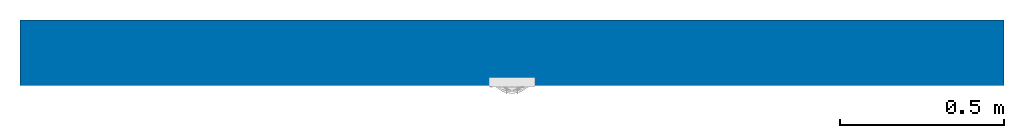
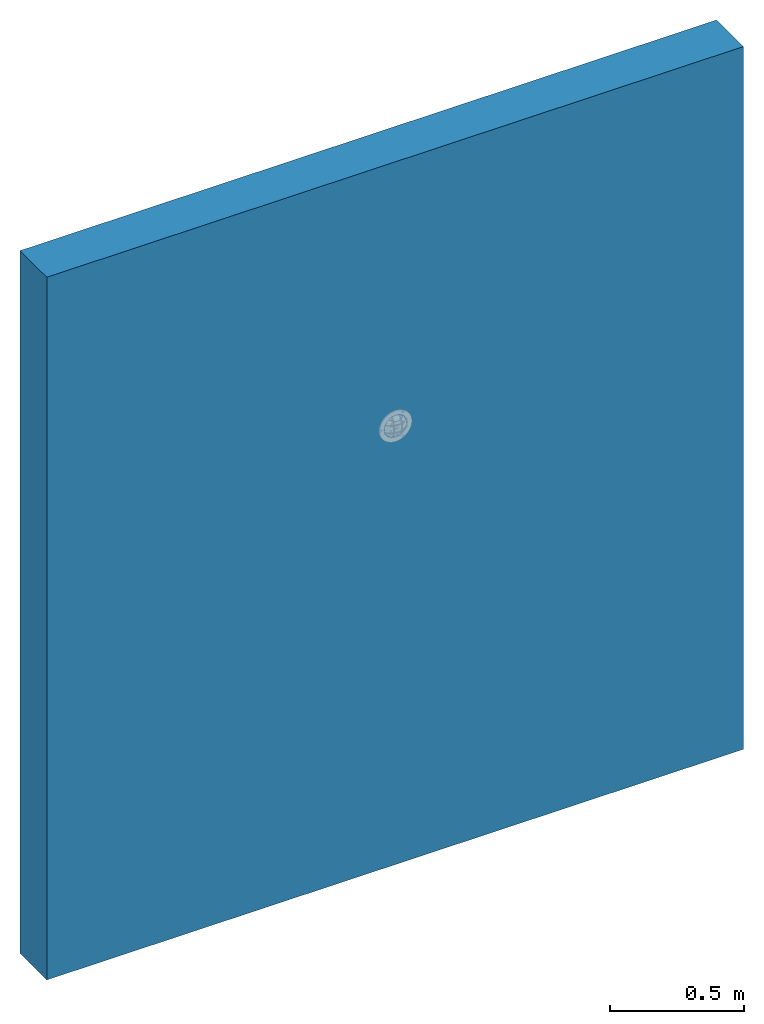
# One storey, part 1 of 2: 1 wall, 3 openings.
"""IFC2X3 building model written with IfcOpenShell, lengths in metres."""

from ifc_helpers import new_model, si_unit, direction, frame, frame_2d, origin, place, context, subcontext, project, spatial, rectangle, extrude, faceted_brep, material, layer, layer_set, layer_usage, type_object, element, save


model = new_model("IFC2X3")

# Units and contexts
model_context = context("Model", 3, precision=1e-05, world=origin(), true_north=direction((6.123233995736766e-17, 1.0)))
body_context = subcontext(model_context, "Body", "Model", "MODEL_VIEW")
ifc_project = project(units=[si_unit("LENGTHUNIT", "METRE"), si_unit("AREAUNIT", "SQUARE_METRE")], contexts=[model_context])

# Site, building, storey
site_placement = place(None, origin())
site = spatial("IfcSite", under=ifc_project, at=site_placement, Name="Default", CompositionType="ELEMENT")
building_placement = place(site_placement, origin())
building = spatial("IfcBuilding", under=site, at=building_placement, CompositionType="ELEMENT")
storey_placement = place(building_placement, origin())
storey = spatial("IfcBuildingStorey", under=building, at=storey_placement, Name="Level 1", CompositionType="ELEMENT", Elevation=0.0)

# Wall, openings
ifc_material = material(Name="Default Wall")
ifc_layer = layer(ifc_material, 0.2)
ifc_layer_set = layer_set([ifc_layer], Name="Basic Wall:Wall 20cm2")
ifc_layer_usage = layer_usage(ifc_layer_set, "AXIS2", "NEGATIVE", 0.1)
wall_type = type_object("IfcWallType", Name="Basic Wall:Wall 20cm2", PredefinedType="STANDARD", material=ifc_layer_set)
wall_placement = place(storey_placement, frame((-5.088410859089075, 2.131286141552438, 0.0)))
wall = element("IfcWallStandardCase", 1, at=wall_placement, inside=storey, type_object=wall_type, material=ifc_layer_usage, Name="Basic Wall:Wall 20cm2", ObjectType="Basic Wall:Wall 20cm2", context=body_context, shape_type="SweptSolid", body=[
    extrude(rectangle(XDim=3.0000000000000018, YDim=0.2, at=frame_2d((1.5000000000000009, 2.0816681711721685e-17), x_axis=(-1.0, 0.0))), origin(), (0.0, 0.0, 1.0), 3.2),
])
opening_1_placement = place(wall_placement, frame((5.088410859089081, -2.131286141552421, 2.0)))
element("IfcOpeningElement", 2, at=opening_1_placement, cuts=wall, Name="Basic Wall:Wall 20cm2", ObjectType="Opening", context=body_context, shape_type="Brep", body=[
    faceted_brep([(-3.6505805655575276, 2.025762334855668, 0.002385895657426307), (-3.652580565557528, 2.025762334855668, 0.002385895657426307), (-3.652580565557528, 2.025762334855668, 0.0009000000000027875), (-3.6540805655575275, 2.025762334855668, 0.0009000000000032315), (-3.6540805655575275, 2.025762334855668, -0.0008999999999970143), (-3.652580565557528, 2.025762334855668, -0.0008999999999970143), (-3.6525805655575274, 2.025762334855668, -0.002399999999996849), (-3.6505805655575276, 2.025762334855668, -0.002399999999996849), (-3.6505805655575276, 2.025762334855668, -0.0008999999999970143), (-3.649078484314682, 2.025762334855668, -0.0008999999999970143), (-3.649078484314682, 2.025762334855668, 0.0009000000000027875), (-3.6505805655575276, 2.025762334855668, 0.0009000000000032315), (-3.6509805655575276, 2.0271323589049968, 0.001985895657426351), (-3.6509805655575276, 2.0271323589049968, 0.0005000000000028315), (-3.649478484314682, 2.0271323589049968, 0.0005000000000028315), (-3.649478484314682, 2.0271323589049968, -0.0004999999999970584), (-3.6509805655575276, 2.0271323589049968, -0.0004999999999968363), (-3.6509805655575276, 2.0271323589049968, -0.001999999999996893), (-3.652180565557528, 2.0271323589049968, -0.001999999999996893), (-3.652180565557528, 2.0271323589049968, -0.0004999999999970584), (-3.6536805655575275, 2.0271323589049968, -0.0004999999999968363), (-3.6536805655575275, 2.0271323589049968, 0.0005000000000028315), (-3.652180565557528, 2.0271323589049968, 0.0005000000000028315), (-3.6521805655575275, 2.0271323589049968, 0.001985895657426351)], [[[0, 1, 2, 3, 4, 5, 6, 7, 8, 9, 10, 11]], [[12, 13, 14, 15, 16, 17, 18, 19, 20, 21, 22, 23]], [[12, 23, 1, 0]], [[23, 22, 2, 1]], [[22, 21, 3, 2]], [[21, 20, 4, 3]], [[20, 19, 5, 4]], [[19, 18, 6, 5]], [[18, 17, 7, 6]], [[17, 16, 8, 7]], [[16, 15, 9, 8]], [[15, 14, 10, 9]], [[14, 13, 11, 10]], [[13, 12, 0, 11]]]),
])
opening_2_placement = place(wall_placement, frame((5.088410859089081, -2.131286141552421, 2.0)))
element("IfcOpeningElement", 3, at=opening_2_placement, cuts=wall, Name="Basic Wall:Wall 20cm2", ObjectType="Opening", context=body_context, shape_type="Brep", body=[
    faceted_brep([(-3.5558204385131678, 2.025762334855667, -0.05233031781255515), (-3.5578204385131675, 2.025762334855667, -0.05233031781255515), (-3.5578204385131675, 2.025762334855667, -0.05381621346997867), (-3.559320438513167, 2.025762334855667, -0.05381621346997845), (-3.559320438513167, 2.025762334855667, -0.05561621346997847), (-3.5578204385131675, 2.025762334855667, -0.05561621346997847), (-3.557820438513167, 2.025762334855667, -0.05711621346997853), (-3.5558204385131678, 2.025762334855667, -0.05711621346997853), (-3.5558204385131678, 2.025762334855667, -0.05561621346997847), (-3.554318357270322, 2.025762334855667, -0.05561621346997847), (-3.554318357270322, 2.025762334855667, -0.05381621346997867), (-3.5558204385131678, 2.025762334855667, -0.05381621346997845), (-3.5562204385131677, 2.027132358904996, -0.052730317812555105), (-3.5562204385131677, 2.027132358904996, -0.054216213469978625), (-3.554718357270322, 2.027132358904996, -0.054216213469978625), (-3.554718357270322, 2.027132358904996, -0.055216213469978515), (-3.5562204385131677, 2.027132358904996, -0.05521621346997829), (-3.5562204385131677, 2.027132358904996, -0.05671621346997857), (-3.5574204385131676, 2.027132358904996, -0.05671621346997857), (-3.5574204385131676, 2.027132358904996, -0.055216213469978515), (-3.5589204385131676, 2.027132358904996, -0.05521621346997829), (-3.5589204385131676, 2.027132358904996, -0.054216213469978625), (-3.5574204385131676, 2.027132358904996, -0.054216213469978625), (-3.557420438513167, 2.027132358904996, -0.052730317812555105)], [[[0, 1, 2, 3, 4, 5, 6, 7, 8, 9, 10, 11]], [[12, 13, 14, 15, 16, 17, 18, 19, 20, 21, 22, 23]], [[12, 23, 1, 0]], [[23, 22, 2, 1]], [[22, 21, 3, 2]], [[21, 20, 4, 3]], [[20, 19, 5, 4]], [[19, 18, 6, 5]], [[18, 17, 7, 6]], [[17, 16, 8, 7]], [[16, 15, 9, 8]], [[15, 14, 10, 9]], [[14, 13, 11, 10]], [[13, 12, 0, 11]]]),
])
opening_3_placement = place(wall_placement, frame((5.088410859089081, -2.131286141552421, 2.0)))
element("IfcOpeningElement", 4, at=opening_3_placement, cuts=wall, Name="Basic Wall:Wall 20cm2", ObjectType="Opening", context=body_context, shape_type="Brep", body=[
    faceted_brep([(-3.5563063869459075, 2.025762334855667, 0.05738589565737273), (-3.5583063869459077, 2.025762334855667, 0.05738589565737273), (-3.5583063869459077, 2.025762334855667, 0.05589999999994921), (-3.5598063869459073, 2.025762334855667, 0.05589999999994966), (-3.5598063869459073, 2.025762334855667, 0.05409999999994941), (-3.5583063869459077, 2.025762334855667, 0.05409999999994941), (-3.5583063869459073, 2.025762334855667, 0.052599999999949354), (-3.5563063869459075, 2.025762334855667, 0.052599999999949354), (-3.5563063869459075, 2.025762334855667, 0.05409999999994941), (-3.554804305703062, 2.025762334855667, 0.05409999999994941), (-3.554804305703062, 2.025762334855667, 0.05589999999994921), (-3.5563063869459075, 2.025762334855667, 0.05589999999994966), (-3.5567063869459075, 2.027132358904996, 0.056985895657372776), (-3.5567063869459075, 2.027132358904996, 0.05549999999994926), (-3.555204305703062, 2.027132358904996, 0.05549999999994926), (-3.555204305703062, 2.027132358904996, 0.05449999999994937), (-3.5567063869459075, 2.027132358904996, 0.05449999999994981), (-3.5567063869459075, 2.027132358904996, 0.05299999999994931), (-3.5579063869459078, 2.027132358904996, 0.05299999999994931), (-3.5579063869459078, 2.027132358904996, 0.05449999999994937), (-3.5594063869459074, 2.027132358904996, 0.05449999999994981), (-3.5594063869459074, 2.027132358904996, 0.05549999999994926), (-3.5579063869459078, 2.027132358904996, 0.05549999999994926), (-3.5579063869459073, 2.027132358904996, 0.056985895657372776)], [[[0, 1, 2, 3, 4, 5, 6, 7, 8, 9, 10, 11]], [[12, 13, 14, 15, 16, 17, 18, 19, 20, 21, 22, 23]], [[12, 23, 1, 0]], [[23, 22, 2, 1]], [[22, 21, 3, 2]], [[21, 20, 4, 3]], [[20, 19, 5, 4]], [[19, 18, 6, 5]], [[18, 17, 7, 6]], [[17, 16, 8, 7]], [[16, 15, 9, 8]], [[15, 14, 10, 9]], [[14, 13, 11, 10]], [[13, 12, 0, 11]]]),
])

save(model, "model.ifc")
